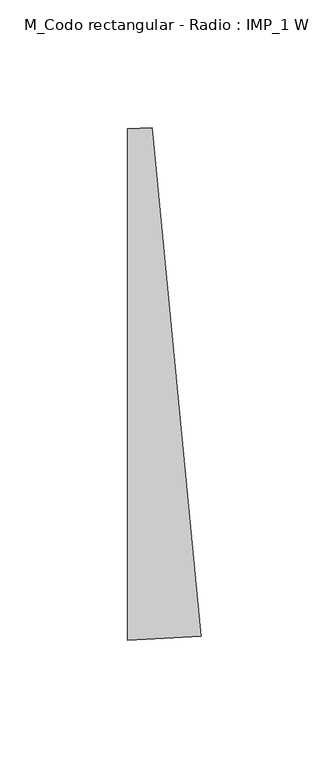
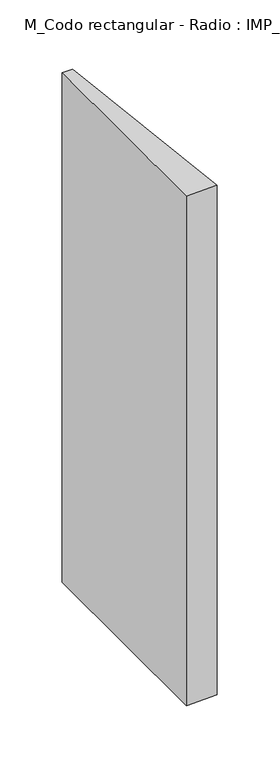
"""IFC4 building model written with IfcOpenShell, lengths in millimetres: duct fitting geometry, M_Codo rectangular - Radio : IMP_1 W."""

import ifcopenshell
import ifcopenshell.guid

model = None  # the IFC model being written
_history = None  # IfcOwnerHistory: only IFC2X3 demands one
_inside = {}  # id of a spatial element -> (the spatial element, [elements in it])
_under = {}  # id of a project, library or spatial element -> (it, [spatial elements below it])
_declared = {}  # id of a project -> (the project, [libraries it declares])
_typed = {}  # id of a type object -> (the type object, [elements of that type])
_made_of = {}  # id of a material, layer set ... -> (it, [elements and type objects made of it])


def new_model(schema):
    """Start an empty IFC model of exactly this schema.

    Asked for "IFC4X3", IfcOpenShell would pick the latest addendum, in which some entities
    have other attributes; the version numbers below select the first issue.
    IFC2X3 requires an IfcOwnerHistory on every rooted entity: one is made here for all.
    """
    global model, _history
    if schema == "IFC4X3":
        model = ifcopenshell.file(schema_version=(4, 3, 0, 0))
    else:
        model = ifcopenshell.file(schema=schema)
    _inside.clear()
    _under.clear()
    _declared.clear()
    _typed.clear()
    _made_of.clear()
    _history = None
    if model.schema == "IFC2X3":
        org = make("IfcOrganization", Name="unknown")
        user = make(
            "IfcPersonAndOrganization",
            ThePerson=make("IfcPerson", FamilyName="unknown"),
            TheOrganization=org,
        )
        app = make(
            "IfcApplication",
            ApplicationDeveloper=org,
            Version="unknown",
            ApplicationFullName="unknown",
            ApplicationIdentifier="unknown",
        )
        _history = make(
            "IfcOwnerHistory",
            OwningUser=user,
            OwningApplication=app,
            ChangeAction="ADDED",
            CreationDate=0,
        )
    return model


def make(cls, **values):
    """One entity of the class cls with the attributes given. An attribute that is None is left unset."""
    return model.create_entity(
        cls, **{name: value for name, value in values.items() if value is not None}
    )


def rooted(cls, **values):
    """An entity with a GlobalId (a new one), such as an element, a storey or a relation."""
    return make(cls, GlobalId=ifcopenshell.guid.new(), OwnerHistory=_history, **values)


def si_unit(unit_type, name, prefix=None):
    """IfcSIUnit, for example si_unit("LENGTHUNIT", "METRE", prefix="MILLI")."""
    return make("IfcSIUnit", UnitType=unit_type, Prefix=prefix, Name=name)


def assignment(units):
    """IfcUnitAssignment: the units of a project."""
    return None if units is None else make("IfcUnitAssignment", Units=units)


def point(xyz):
    """IfcCartesianPoint."""
    return None if xyz is None else make("IfcCartesianPoint", Coordinates=xyz)


def direction(xyz):
    """IfcDirection."""
    return None if xyz is None else make("IfcDirection", DirectionRatios=xyz)


def frame(location, z_axis=None, x_axis=None):
    """IfcAxis2Placement3D, a coordinate frame: its origin and axes. An axis left out is left unset."""
    return make(
        "IfcAxis2Placement3D",
        Location=point(location),
        Axis=direction(z_axis),
        RefDirection=direction(x_axis),
    )


def frame_2d(location, x_axis=None):
    """IfcAxis2Placement2D, a coordinate frame in the plane: its origin and x axis."""
    return make(
        "IfcAxis2Placement2D", Location=point(location), RefDirection=direction(x_axis)
    )


def origin():
    """The frame at (0, 0, 0) with its axes left unset."""
    return frame((0.0, 0.0, 0.0))


def place(relative_to, where):
    """IfcLocalPlacement: puts the frame where relative to a parent placement (None: the world)."""
    return make(
        "IfcLocalPlacement", PlacementRelTo=relative_to, RelativePlacement=where
    )


def context(
    kind, dimensions, precision=None, world=None, true_north=None, identifier=None
):
    """IfcGeometricRepresentationContext, for example the 3D "Model" context."""
    return make(
        "IfcGeometricRepresentationContext",
        ContextIdentifier=identifier,
        ContextType=kind,
        CoordinateSpaceDimension=dimensions,
        Precision=precision,
        WorldCoordinateSystem=world,
        TrueNorth=true_north,
    )


def project(units=None, contexts=None):
    """IfcProject with its units and contexts."""
    return rooted(
        "IfcProject",
        Name="project",
        RepresentationContexts=contexts,
        UnitsInContext=assignment(units),
    )


def spatial(cls, under=None, at=None, **own):
    """A site, building, storey or space (cls), placed at a placement, below another one or the project."""
    s = rooted(cls, ObjectPlacement=at, **own)
    if under is not None:
        _under.setdefault(under.id(), (under, []))[1].append(s)
    return s


def polyline(points):
    """IfcPolyline through the points."""
    return make("IfcPolyline", Points=[point(p) for p in points])


def circle_curve(where, radius):
    """IfcCircle in the frame where."""
    return make("IfcCircle", Position=where, Radius=radius)


def trimmed(basis, trim1, trim2, sense, master):
    """IfcTrimmedCurve: the piece of a basis curve between two trims."""
    return make(
        "IfcTrimmedCurve",
        BasisCurve=basis,
        Trim1=trim1,
        Trim2=trim2,
        SenseAgreement=sense,
        MasterRepresentation=master,
    )


def segment(curve, same_sense, transition):
    """IfcCompositeCurveSegment."""
    return make(
        "IfcCompositeCurveSegment",
        Transition=transition,
        SameSense=same_sense,
        ParentCurve=curve,
    )


def composite_curve(segments, self_intersect=None):
    """IfcCompositeCurve: segments joined end to end."""
    return make("IfcCompositeCurve", Segments=segments, SelfIntersect=self_intersect)


def outline(outer, holes=None, kind="AREA"):
    """IfcArbitraryClosedProfileDef: a profile drawn as a closed curve; with holes, ...WithVoids."""
    if holes is None:
        return make("IfcArbitraryClosedProfileDef", ProfileType=kind, OuterCurve=outer)
    return make(
        "IfcArbitraryProfileDefWithVoids",
        ProfileType=kind,
        OuterCurve=outer,
        InnerCurves=holes,
    )


def extrude(swept, where, along, depth):
    """IfcExtrudedAreaSolid: the profile swept, set in the frame where, extruded along a direction by depth."""
    return make(
        "IfcExtrudedAreaSolid",
        SweptArea=swept,
        Position=where,
        ExtrudedDirection=direction(along),
        Depth=depth,
    )


def shape(context_of_items, identifier, shape_type, items):
    """IfcShapeRepresentation: the items that make up one representation, for example the "Body"."""
    return make(
        "IfcShapeRepresentation",
        ContextOfItems=context_of_items,
        RepresentationIdentifier=identifier,
        RepresentationType=shape_type,
        Items=items,
    )


def source(mapping_origin, context_of_items, identifier, shape_type, items):
    """IfcRepresentationMap: a shape defined once, which mapped items show again and again."""
    return make(
        "IfcRepresentationMap",
        MappingOrigin=mapping_origin,
        MappedRepresentation=shape(context_of_items, identifier, shape_type, items),
    )


def transform(
    local_origin,
    x_axis=None,
    y_axis=None,
    z_axis=None,
    scale=None,
    scale2=None,
    scale3=None,
    uniform=True,
):
    """IfcCartesianTransformationOperator3D, or its non-uniform kind. x_axis, y_axis, z_axis: its Axis1, 2, 3."""
    if uniform:
        return make(
            "IfcCartesianTransformationOperator3D",
            Axis1=direction(x_axis),
            Axis2=direction(y_axis),
            LocalOrigin=point(local_origin),
            Scale=scale,
            Axis3=direction(z_axis),
        )
    return make(
        "IfcCartesianTransformationOperator3DnonUniform",
        Axis1=direction(x_axis),
        Axis2=direction(y_axis),
        LocalOrigin=point(local_origin),
        Scale=scale,
        Axis3=direction(z_axis),
        Scale2=scale2,
        Scale3=scale3,
    )


def mapped(mapping_source, mapping_target):
    """IfcMappedItem: shows the shape of a source again, moved by a transform."""
    return make(
        "IfcMappedItem", MappingSource=mapping_source, MappingTarget=mapping_target
    )


def made_of(thing, what):
    """Note that an element or type object is made of a material, layer set ...; save() writes the relation."""
    if what is not None:
        _made_of.setdefault(what.id(), (what, []))[1].append(thing)
    return thing


def element(
    cls,
    number,
    at=None,
    inside=None,
    cuts=None,
    type_object=None,
    material=None,
    context=None,
    identifier="Body",
    shape_type=None,
    held_by="IfcProductDefinitionShape",
    body=None,
    shapes=None,
    **own,
):
    """One element of the class cls, such as IfcWall. Its Tag is "e" and its number.

    at: its placement. inside: the storey or other place that contains it. cuts: it is an
    opening in that element (IfcRelVoidsElement). A single representation is given by context,
    identifier, shape_type and body (its items); several are given by shapes. held_by: the class
    of the entity that holds the representations. save() writes the other relations.
    """
    e = rooted(cls, Tag="e%d" % number, ObjectPlacement=at, **own)
    if body is not None:
        shapes = [shape(context, identifier, shape_type, body)]
    if shapes is not None:
        e.Representation = make(held_by, Representations=shapes)
    if inside is not None:
        _inside.setdefault(inside.id(), (inside, []))[1].append(e)
    if cuts is not None:
        rooted(
            "IfcRelVoidsElement", RelatingBuildingElement=cuts, RelatedOpeningElement=e
        )
    if type_object is not None:
        _typed.setdefault(type_object.id(), (type_object, []))[1].append(e)
    return made_of(e, material)


def aggregate(whole, parts):
    """IfcRelAggregates: a whole, such as a stair, and the parts it consists of."""
    return rooted("IfcRelAggregates", RelatingObject=whole, RelatedObjects=parts)


def save(model, path):
    """Write the relations noted so far, then the file.

    IfcRelAggregates (storeys below a building ...), IfcRelContainedInSpatialStructure (elements
    in a storey), IfcRelDefinesByType, IfcRelAssociatesMaterial and IfcRelDeclares: one each for
    every whole, place, type object, material and project.
    """
    for whole, parts in _under.values():
        aggregate(whole, parts)
    for where, things in _inside.values():
        rooted(
            "IfcRelContainedInSpatialStructure",
            RelatedElements=things,
            RelatingStructure=where,
        )
    for kind, things in _typed.values():
        rooted("IfcRelDefinesByType", RelatedObjects=things, RelatingType=kind)
    for what, things in _made_of.values():
        rooted("IfcRelAssociatesMaterial", RelatedObjects=things, RelatingMaterial=what)
    for by, libraries in _declared.values():
        rooted("IfcRelDeclares", RelatingContext=by, RelatedDefinitions=libraries)
    model.write(path)


def m_codo_rectangular_radio_imp_1_w_3cf00d76(model_context):
    return source(origin(), model_context, "Body", "SweptSolid", [
        extrude(outline(composite_curve([segment(trimmed(circle_curve(frame_2d((-9.6141963, 200.0)), 300.0), [point((19.1618963, -98.616705))], [point((-9.6141963, -100.0))], False, "CARTESIAN"), True, "CONTINUOUS"), segment(polyline([(-9.6141963, -100.0), (-9.6141963, 100.0)]), True, "CONTINUOUS"), segment(trimmed(circle_curve(frame_2d((-9.6141963, 200.0)), 100.0), [point((-9.6141963, 100.0))], [point((-0.0221654, 100.4610983))], True, "CARTESIAN"), True, "CONTINUOUS"), segment(polyline([(-0.0221654, 100.4610983), (19.1618963, -98.616705)]), True, "CONTINUOUS")], self_intersect=False)), frame((0.0, 0.0, -250.0), z_axis=(0.0, 0.0, 1.0), x_axis=(1.0, 0.0, 0.0)), (0.0, 0.0, 1.0), 500.0),
    ])


if __name__ == "__main__":
    model = new_model("IFC4")
    model_context = context("Model", 3, world=origin())
    ifc_project = project(units=[si_unit("LENGTHUNIT", "METRE", prefix="MILLI")], contexts=[model_context])
    site = spatial("IfcSite", under=ifc_project)
    building = spatial("IfcBuilding", under=site)
    placement = place(None, origin())
    m_codo_rectangular_radio_imp_1_w_shape = m_codo_rectangular_radio_imp_1_w_3cf00d76(model_context)
    element("IfcDuctFitting", 1, ObjectType="M_Codo rectangular - Radio : IMP_1 W", at=placement, inside=building, context=model_context, shape_type="MappedRepresentation", body=[
        mapped(m_codo_rectangular_radio_imp_1_w_shape, transform((0.0, 0.0, 0.0), x_axis=(1.0, 0.0, 0.0), y_axis=(0.0, 1.0, 0.0), z_axis=(0.0, 0.0, 1.0))),
    ])
    save(model, "model.ifc")
